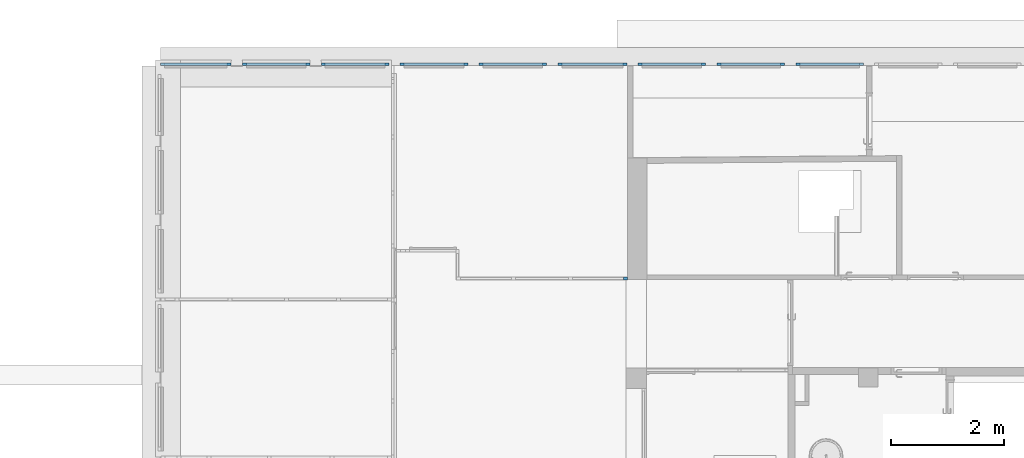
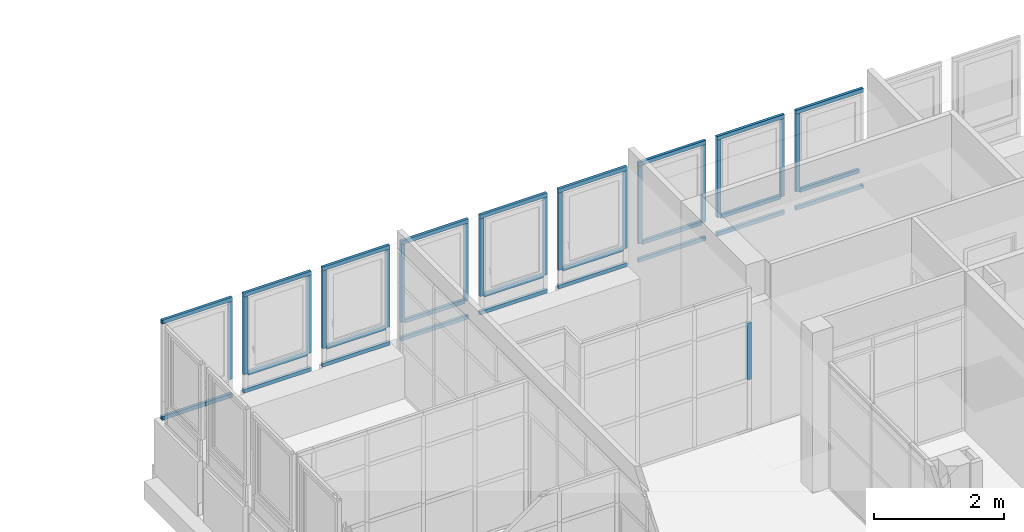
# One storey, part 11 of 97: 43 members, 10 elements without a shape of their own.
"""IFC4 building model written with IfcOpenShell, lengths in metres."""

from ifc_helpers import new_model, entity, si_unit, converted_unit, derived_unit, direction, frame, origin, place, context, subcontext, project, spatial, indexed_curve, outline, extrude, source, transform, mapped, material, type_object, type_shapes, element, aggregate, save


model = new_model("IFC4")

# Units and contexts
model_context = context("Model", 3, precision=1e-05, world=origin(), true_north=direction((6.12303176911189e-17, 1.0)))
body_context = subcontext(model_context, "Body", "Model", "MODEL_VIEW")
ifc_project = project(units=[si_unit("LENGTHUNIT", "METRE"), si_unit("AREAUNIT", "SQUARE_METRE"), si_unit("VOLUMEUNIT", "CUBIC_METRE"), converted_unit("PLANEANGLEUNIT", "DEGREE", entity("IfcRatioMeasure", 0.0174532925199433), si_unit("PLANEANGLEUNIT", "RADIAN"), dimensions=[0, 0, 0, 0, 0, 0, 0]), si_unit("MASSUNIT", "GRAM", prefix="KILO"), derived_unit("MASSDENSITYUNIT", [(si_unit("MASSUNIT", "GRAM", prefix="KILO"), 1), (si_unit("LENGTHUNIT", "METRE"), -3)]), derived_unit("MOMENTOFINERTIAUNIT", [(si_unit("LENGTHUNIT", "METRE"), 4)]), si_unit("TIMEUNIT", "SECOND"), si_unit("FREQUENCYUNIT", "HERTZ"), si_unit("THERMODYNAMICTEMPERATUREUNIT", "DEGREE_CELSIUS"), derived_unit("THERMALTRANSMITTANCEUNIT", [(si_unit("MASSUNIT", "GRAM", prefix="KILO"), 1), (si_unit("THERMODYNAMICTEMPERATUREUNIT", "KELVIN"), -1), (si_unit("TIMEUNIT", "SECOND"), -3)]), derived_unit("VOLUMETRICFLOWRATEUNIT", [(si_unit("LENGTHUNIT", "METRE"), 3), (si_unit("TIMEUNIT", "SECOND"), -1)]), si_unit("ELECTRICCURRENTUNIT", "AMPERE"), si_unit("ELECTRICVOLTAGEUNIT", "VOLT"), si_unit("POWERUNIT", "WATT"), si_unit("FORCEUNIT", "NEWTON", prefix="KILO"), si_unit("ILLUMINANCEUNIT", "LUX"), si_unit("LUMINOUSFLUXUNIT", "LUMEN"), si_unit("LUMINOUSINTENSITYUNIT", "CANDELA"), derived_unit("USERDEFINED", [(si_unit("MASSUNIT", "GRAM", prefix="KILO"), -1), (si_unit("LENGTHUNIT", "METRE"), -2), (si_unit("TIMEUNIT", "SECOND"), 3), (si_unit("LUMINOUSFLUXUNIT", "LUMEN"), 1)]), derived_unit("LINEARVELOCITYUNIT", [(si_unit("LENGTHUNIT", "METRE"), 1), (si_unit("TIMEUNIT", "SECOND"), -1)]), si_unit("PRESSUREUNIT", "PASCAL"), derived_unit("USERDEFINED", [(si_unit("LENGTHUNIT", "METRE"), -2), (si_unit("MASSUNIT", "GRAM", prefix="KILO"), 1), (si_unit("TIMEUNIT", "SECOND"), -2)]), derived_unit("LINEARFORCEUNIT", [(si_unit("MASSUNIT", "GRAM", prefix="KILO"), 1), (si_unit("LENGTHUNIT", "METRE"), 1), (si_unit("TIMEUNIT", "SECOND"), -2), (si_unit("LENGTHUNIT", "METRE"), -1)]), derived_unit("PLANARFORCEUNIT", [(si_unit("MASSUNIT", "GRAM", prefix="KILO"), 1), (si_unit("LENGTHUNIT", "METRE"), 1), (si_unit("TIMEUNIT", "SECOND"), -2), (si_unit("LENGTHUNIT", "METRE"), -2)])], contexts=[model_context])

# Site, building, storey
site_placement = place(None, origin())
site = spatial("IfcSite", under=ifc_project, at=site_placement, Name="Default", CompositionType="ELEMENT")
building_placement = place(site_placement, origin())
building = spatial("IfcBuilding", under=site, at=building_placement, Name="HOTEL CONSULAIRE BOULOGNE SUR MER", CompositionType="ELEMENT")
storey_placement = place(building_placement, frame((0.0, 0.0, 3.62152697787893)))
storey = spatial("IfcBuildingStorey", under=building, at=storey_placement, Name="Niveau 1", CompositionType="ELEMENT", Elevation=3.62152697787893)

# Curtain wall, member
curtain_wall_type = type_object("IfcCurtainWallType", Name="Mur-rideau:Simple panneau", PredefinedType="NOTDEFINED")
curtain_wall_1_placement = place(storey_placement, frame((0.0, 0.0, -3.62152697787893)))
curtain_wall_1 = element("IfcCurtainWall", 1, at=curtain_wall_1_placement, inside=storey, type_object=curtain_wall_type, Name="Mur-rideau:Simple panneau", ObjectType="Mur-rideau:Simple panneau", PredefinedType="NOTDEFINED")
ifc_material_1 = material(Name="PVC - Blanc", Category="Plastique")
member_type_1 = type_object("IfcMemberType", Name="Meneau rectangulaire:50 x 35", PredefinedType="MULLION", material=ifc_material_1)
shared_shape_1 = source(origin(), body_context, "Body", "SweptSolid", [
    extrude(outline(indexed_curve([(-0.025, -0.035), (0.025, -0.035), (0.025, 0.035), (-0.025, 0.035), (-0.025, -0.035)], self_intersect=False)), frame((-0.035, -0.025, -1.20000000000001), z_axis=(0.0, 0.0, 1.0), x_axis=(0.0, -1.0, 0.0)), (0.0, 0.0, 1.0), 1.20000000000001),
])
type_shapes(member_type_1, [shared_shape_1])
member_1_placement = place(storey_placement, frame((-11.1414199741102, -10.0746323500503, 2.67047302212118), z_axis=(1.0, 0.0, 0.0), x_axis=(0.0, 0.0, 1.0)))
member_1 = element("IfcMember", 2, at=member_1_placement, type_object=member_type_1, material=ifc_material_1, Name="Meneau rectangulaire:50 x 35", ObjectType="Meneau rectangulaire:50 x 35", PredefinedType="MULLION", context=body_context, shape_type="MappedRepresentation", body=[
    mapped(shared_shape_1, transform((0.0, 0.0, 0.0), scale=1.0)),
])

curtain_wall_2_placement = place(storey_placement, frame((0.0, 0.0, -3.62152697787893)))
curtain_wall_2 = element("IfcCurtainWall", 3, at=curtain_wall_2_placement, inside=storey, type_object=curtain_wall_type, Name="Mur-rideau:Simple panneau", ObjectType="Mur-rideau:Simple panneau", PredefinedType="NOTDEFINED")
member_2_placement = place(storey_placement, frame((-9.74141997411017, -10.0746323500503, 2.67047302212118), z_axis=(1.0, 0.0, 0.0), x_axis=(0.0, 0.0, 1.0)))
member_2 = element("IfcMember", 4, at=member_2_placement, type_object=member_type_1, material=ifc_material_1, Name="Meneau rectangulaire:50 x 35", ObjectType="Meneau rectangulaire:50 x 35", PredefinedType="MULLION", context=body_context, shape_type="MappedRepresentation", body=[
    mapped(shared_shape_1, transform((0.0, 0.0, 0.0), scale=1.0)),
])

curtain_wall_3_placement = place(storey_placement, frame((0.0, 0.0, -3.62152697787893)))
curtain_wall_3 = element("IfcCurtainWall", 5, at=curtain_wall_3_placement, inside=storey, type_object=curtain_wall_type, Name="Mur-rideau:Simple panneau", ObjectType="Mur-rideau:Simple panneau", PredefinedType="NOTDEFINED")
member_3_placement = place(storey_placement, frame((-8.34141997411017, -10.0746323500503, 2.67047302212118), z_axis=(1.0, 0.0, 0.0), x_axis=(0.0, 0.0, 1.0)))
member_3 = element("IfcMember", 6, at=member_3_placement, type_object=member_type_1, material=ifc_material_1, Name="Meneau rectangulaire:50 x 35", ObjectType="Meneau rectangulaire:50 x 35", PredefinedType="MULLION", context=body_context, shape_type="MappedRepresentation", body=[
    mapped(shared_shape_1, transform((0.0, 0.0, 0.0), scale=1.0)),
])

curtain_wall_4_placement = place(storey_placement, frame((0.0, 0.0, -3.62152697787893)))
curtain_wall_4 = element("IfcCurtainWall", 7, at=curtain_wall_4_placement, inside=storey, type_object=curtain_wall_type, Name="Mur-rideau:Simple panneau", ObjectType="Mur-rideau:Simple panneau", PredefinedType="NOTDEFINED")
member_4_placement = place(storey_placement, frame((-6.94141997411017, -10.0746323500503, 2.67047302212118), z_axis=(1.0, 0.0, 0.0), x_axis=(0.0, 0.0, 1.0)))
member_4 = element("IfcMember", 8, at=member_4_placement, type_object=member_type_1, material=ifc_material_1, Name="Meneau rectangulaire:50 x 35", ObjectType="Meneau rectangulaire:50 x 35", PredefinedType="MULLION", context=body_context, shape_type="MappedRepresentation", body=[
    mapped(shared_shape_1, transform((0.0, 0.0, 0.0), scale=1.0)),
])

curtain_wall_5_placement = place(storey_placement, frame((0.0, 0.0, -3.62152697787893)))
curtain_wall_5 = element("IfcCurtainWall", 9, at=curtain_wall_5_placement, inside=storey, type_object=curtain_wall_type, Name="Mur-rideau:Simple panneau", ObjectType="Mur-rideau:Simple panneau", PredefinedType="NOTDEFINED")
member_5_placement = place(storey_placement, frame((-4.11977317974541, -10.0746323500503, 2.67047302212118), z_axis=(1.0, 0.0, 0.0), x_axis=(0.0, 0.0, 1.0)))
member_5 = element("IfcMember", 10, at=member_5_placement, type_object=member_type_1, material=ifc_material_1, Name="Meneau rectangulaire:50 x 35", ObjectType="Meneau rectangulaire:50 x 35", PredefinedType="MULLION", context=body_context, shape_type="MappedRepresentation", body=[
    mapped(shared_shape_1, transform((0.0, 0.0, 0.0), scale=1.0)),
])

curtain_wall_6_placement = place(storey_placement, frame((0.0, 0.0, -3.62152697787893)))
curtain_wall_6 = element("IfcCurtainWall", 11, at=curtain_wall_6_placement, inside=storey, type_object=curtain_wall_type, Name="Mur-rideau:Simple panneau", ObjectType="Mur-rideau:Simple panneau", PredefinedType="NOTDEFINED")
member_6_placement = place(storey_placement, frame((-2.71977317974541, -10.0746323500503, 2.67047302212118), z_axis=(1.0, 0.0, 0.0), x_axis=(0.0, 0.0, 1.0)))
member_6 = element("IfcMember", 12, at=member_6_placement, type_object=member_type_1, material=ifc_material_1, Name="Meneau rectangulaire:50 x 35", ObjectType="Meneau rectangulaire:50 x 35", PredefinedType="MULLION", context=body_context, shape_type="MappedRepresentation", body=[
    mapped(shared_shape_1, transform((0.0, 0.0, 0.0), scale=1.0)),
])

curtain_wall_7_placement = place(storey_placement, frame((0.0, 0.0, -3.62152697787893)))
curtain_wall_7 = element("IfcCurtainWall", 13, at=curtain_wall_7_placement, inside=storey, type_object=curtain_wall_type, Name="Mur-rideau:Simple panneau", ObjectType="Mur-rideau:Simple panneau", PredefinedType="NOTDEFINED")
member_7_placement = place(storey_placement, frame((-1.31977317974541, -10.0746323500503, 2.67047302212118), z_axis=(1.0, 0.0, 0.0), x_axis=(0.0, 0.0, 1.0)))
member_7 = element("IfcMember", 14, at=member_7_placement, type_object=member_type_1, material=ifc_material_1, Name="Meneau rectangulaire:50 x 35", ObjectType="Meneau rectangulaire:50 x 35", PredefinedType="MULLION", context=body_context, shape_type="MappedRepresentation", body=[
    mapped(shared_shape_1, transform((0.0, 0.0, 0.0), scale=1.0)),
])

# Member
member_type_2 = type_object("IfcMemberType", Name="Meneau rectangulaire:50 x 35", PredefinedType="MULLION", material=ifc_material_1)
shared_shape_2 = source(origin(), body_context, "Body", "SweptSolid", [
    extrude(outline(indexed_curve([(-0.025, -0.035), (0.025, -0.035), (0.025, 0.035), (-0.025, 0.035), (-0.025, -0.035)], self_intersect=False)), frame((-0.035, -0.025, -1.20000000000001), z_axis=(0.0, 0.0, 1.0), x_axis=(0.0, -1.0, 0.0)), (0.0, 0.0, 1.0), 1.20000000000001),
])
type_shapes(member_type_2, [shared_shape_2])
member_8_placement = place(storey_placement, frame((-12.3414199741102, -10.0746323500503, 0.791612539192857), z_axis=(-1.0, 0.0, 0.0), x_axis=(0.0, 0.0, -1.0)))
member_8 = element("IfcMember", 15, at=member_8_placement, type_object=member_type_2, material=ifc_material_1, Name="Meneau rectangulaire:50 x 35", ObjectType="Meneau rectangulaire:50 x 35", PredefinedType="MULLION", context=body_context, shape_type="MappedRepresentation", body=[
    mapped(shared_shape_2, transform((0.0, 0.0, 0.0), scale=1.0)),
])

member_9_placement = place(storey_placement, frame((-10.9414199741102, -10.0746323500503, 0.791612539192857), z_axis=(-1.0, 0.0, 0.0), x_axis=(0.0, 0.0, -1.0)))
member_9 = element("IfcMember", 16, at=member_9_placement, type_object=member_type_2, material=ifc_material_1, Name="Meneau rectangulaire:50 x 35", ObjectType="Meneau rectangulaire:50 x 35", PredefinedType="MULLION", context=body_context, shape_type="MappedRepresentation", body=[
    mapped(shared_shape_2, transform((0.0, 0.0, 0.0), scale=1.0)),
])

member_10_placement = place(storey_placement, frame((-9.54141997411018, -10.0746323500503, 0.791612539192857), z_axis=(-1.0, 0.0, 0.0), x_axis=(0.0, 0.0, -1.0)))
member_10 = element("IfcMember", 17, at=member_10_placement, type_object=member_type_2, material=ifc_material_1, Name="Meneau rectangulaire:50 x 35", ObjectType="Meneau rectangulaire:50 x 35", PredefinedType="MULLION", context=body_context, shape_type="MappedRepresentation", body=[
    mapped(shared_shape_2, transform((0.0, 0.0, 0.0), scale=1.0)),
])

member_11_placement = place(storey_placement, frame((-8.14141997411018, -10.0746323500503, 0.791612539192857), z_axis=(-1.0, 0.0, 0.0), x_axis=(0.0, 0.0, -1.0)))
member_11 = element("IfcMember", 18, at=member_11_placement, type_object=member_type_2, material=ifc_material_1, Name="Meneau rectangulaire:50 x 35", ObjectType="Meneau rectangulaire:50 x 35", PredefinedType="MULLION", context=body_context, shape_type="MappedRepresentation", body=[
    mapped(shared_shape_2, transform((0.0, 0.0, 0.0), scale=1.0)),
])

member_12_placement = place(storey_placement, frame((-5.31977317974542, -10.0746323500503, 0.791612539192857), z_axis=(-1.0, 0.0, 0.0), x_axis=(0.0, 0.0, -1.0)))
member_12 = element("IfcMember", 19, at=member_12_placement, type_object=member_type_2, material=ifc_material_1, Name="Meneau rectangulaire:50 x 35", ObjectType="Meneau rectangulaire:50 x 35", PredefinedType="MULLION", context=body_context, shape_type="MappedRepresentation", body=[
    mapped(shared_shape_2, transform((0.0, 0.0, 0.0), scale=1.0)),
])

member_13_placement = place(storey_placement, frame((-3.91977317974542, -10.0746323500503, 0.791612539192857), z_axis=(-1.0, 0.0, 0.0), x_axis=(0.0, 0.0, -1.0)))
member_13 = element("IfcMember", 20, at=member_13_placement, type_object=member_type_2, material=ifc_material_1, Name="Meneau rectangulaire:50 x 35", ObjectType="Meneau rectangulaire:50 x 35", PredefinedType="MULLION", context=body_context, shape_type="MappedRepresentation", body=[
    mapped(shared_shape_2, transform((0.0, 0.0, 0.0), scale=1.0)),
])

member_14_placement = place(storey_placement, frame((-2.51977317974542, -10.0746323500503, 0.791612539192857), z_axis=(-1.0, 0.0, 0.0), x_axis=(0.0, 0.0, -1.0)))
member_14 = element("IfcMember", 21, at=member_14_placement, type_object=member_type_2, material=ifc_material_1, Name="Meneau rectangulaire:50 x 35", ObjectType="Meneau rectangulaire:50 x 35", PredefinedType="MULLION", context=body_context, shape_type="MappedRepresentation", body=[
    mapped(shared_shape_2, transform((0.0, 0.0, 0.0), scale=1.0)),
])

member_type_3 = type_object("IfcMemberType", Name="Meneau rectangulaire:50 x 35", PredefinedType="MULLION", material=ifc_material_1)
shared_shape_3 = source(origin(), body_context, "Body", "SweptSolid", [
    extrude(outline(indexed_curve([(-0.025, -0.035), (0.025, -0.035), (0.025, 0.035), (-0.025, 0.035), (-0.025, -0.035)], self_intersect=False)), frame((0.0, -0.025, -1.06000000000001), z_axis=(0.0, 0.0, 1.0), x_axis=(0.0, -1.0, 0.0)), (0.0, 0.0, 1.0), 1.06000000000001),
])
type_shapes(member_type_3, [shared_shape_3])
member_15_placement = place(storey_placement, frame((-11.2114199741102, -10.0746323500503, 1.13961253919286), z_axis=(1.0, 0.0, 0.0), x_axis=(0.0, 0.0, 1.0)))
member_15 = element("IfcMember", 22, at=member_15_placement, type_object=member_type_3, material=ifc_material_1, Name="Meneau rectangulaire:50 x 35", ObjectType="Meneau rectangulaire:50 x 35", PredefinedType="MULLION", context=body_context, shape_type="MappedRepresentation", body=[
    mapped(shared_shape_3, transform((0.0, 0.0, 0.0), scale=1.0)),
])

member_16_placement = place(storey_placement, frame((-9.81141997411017, -10.0746323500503, 1.13961253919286), z_axis=(1.0, 0.0, 0.0), x_axis=(0.0, 0.0, 1.0)))
member_16 = element("IfcMember", 23, at=member_16_placement, type_object=member_type_3, material=ifc_material_1, Name="Meneau rectangulaire:50 x 35", ObjectType="Meneau rectangulaire:50 x 35", PredefinedType="MULLION", context=body_context, shape_type="MappedRepresentation", body=[
    mapped(shared_shape_3, transform((0.0, 0.0, 0.0), scale=1.0)),
])

member_17_placement = place(storey_placement, frame((-8.41141997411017, -10.0746323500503, 1.13961253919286), z_axis=(1.0, 0.0, 0.0), x_axis=(0.0, 0.0, 1.0)))
member_17 = element("IfcMember", 24, at=member_17_placement, type_object=member_type_3, material=ifc_material_1, Name="Meneau rectangulaire:50 x 35", ObjectType="Meneau rectangulaire:50 x 35", PredefinedType="MULLION", context=body_context, shape_type="MappedRepresentation", body=[
    mapped(shared_shape_3, transform((0.0, 0.0, 0.0), scale=1.0)),
])

member_18_placement = place(storey_placement, frame((-7.01141997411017, -10.0746323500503, 1.13961253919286), z_axis=(1.0, 0.0, 0.0), x_axis=(0.0, 0.0, 1.0)))
member_18 = element("IfcMember", 25, at=member_18_placement, type_object=member_type_3, material=ifc_material_1, Name="Meneau rectangulaire:50 x 35", ObjectType="Meneau rectangulaire:50 x 35", PredefinedType="MULLION", context=body_context, shape_type="MappedRepresentation", body=[
    mapped(shared_shape_3, transform((0.0, 0.0, 0.0), scale=1.0)),
])

member_19_placement = place(storey_placement, frame((-4.18977317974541, -10.0746323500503, 1.13961253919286), z_axis=(1.0, 0.0, 0.0), x_axis=(0.0, 0.0, 1.0)))
member_19 = element("IfcMember", 26, at=member_19_placement, type_object=member_type_3, material=ifc_material_1, Name="Meneau rectangulaire:50 x 35", ObjectType="Meneau rectangulaire:50 x 35", PredefinedType="MULLION", context=body_context, shape_type="MappedRepresentation", body=[
    mapped(shared_shape_3, transform((0.0, 0.0, 0.0), scale=1.0)),
])

member_20_placement = place(storey_placement, frame((-2.78977317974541, -10.0746323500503, 1.13961253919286), z_axis=(1.0, 0.0, 0.0), x_axis=(0.0, 0.0, 1.0)))
member_20 = element("IfcMember", 27, at=member_20_placement, type_object=member_type_3, material=ifc_material_1, Name="Meneau rectangulaire:50 x 35", ObjectType="Meneau rectangulaire:50 x 35", PredefinedType="MULLION", context=body_context, shape_type="MappedRepresentation", body=[
    mapped(shared_shape_3, transform((0.0, 0.0, 0.0), scale=1.0)),
])

member_21_placement = place(storey_placement, frame((-1.38977317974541, -10.0746323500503, 1.13961253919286), z_axis=(1.0, 0.0, 0.0), x_axis=(0.0, 0.0, 1.0)))
member_21 = element("IfcMember", 28, at=member_21_placement, type_object=member_type_3, material=ifc_material_1, Name="Meneau rectangulaire:50 x 35", ObjectType="Meneau rectangulaire:50 x 35", PredefinedType="MULLION", context=body_context, shape_type="MappedRepresentation", body=[
    mapped(shared_shape_3, transform((0.0, 0.0, 0.0), scale=1.0)),
])

# Curtain wall, member
curtain_wall_8_placement = place(storey_placement, frame((0.0, 0.0, -3.62152697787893)))
curtain_wall_8 = element("IfcCurtainWall", 29, at=curtain_wall_8_placement, inside=storey, type_object=curtain_wall_type, Name="Mur-rideau:Simple panneau", ObjectType="Mur-rideau:Simple panneau", PredefinedType="NOTDEFINED")
member_type_4 = type_object("IfcMemberType", Name="Meneau rectangulaire:50 x 35", PredefinedType="MULLION", material=ifc_material_1)
shared_shape_4 = source(origin(), body_context, "Body", "SweptSolid", [
    extrude(outline(indexed_curve([(-0.025, -0.035), (0.025, -0.035), (0.025, 0.035), (-0.025, 0.035), (-0.025, -0.035)], self_intersect=False)), frame((-0.035, -0.025, -1.46086048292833), z_axis=(0.0, 0.0, 1.0), x_axis=(0.0, -1.0, 0.0)), (0.0, 0.0, 1.0), 1.46086048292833),
])
type_shapes(member_type_4, [shared_shape_4])
member_22_placement = place(storey_placement, frame((-12.5414199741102, -10.0746323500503, 1.13961253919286), z_axis=(0.0, 0.0, -1.0), x_axis=(1.0, 0.0, 0.0)))
member_22 = element("IfcMember", 30, at=member_22_placement, type_object=member_type_4, material=ifc_material_1, Name="Meneau rectangulaire:50 x 35", ObjectType="Meneau rectangulaire:50 x 35", PredefinedType="MULLION", context=body_context, shape_type="MappedRepresentation", body=[
    mapped(shared_shape_4, transform((0.0, 0.0, 0.0), scale=1.0)),
])

# Member
member_23_placement = place(storey_placement, frame((-11.1414199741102, -10.0746323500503, 1.13961253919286), z_axis=(0.0, 0.0, -1.0), x_axis=(1.0, 0.0, 0.0)))
member_23 = element("IfcMember", 31, at=member_23_placement, type_object=member_type_4, material=ifc_material_1, Name="Meneau rectangulaire:50 x 35", ObjectType="Meneau rectangulaire:50 x 35", PredefinedType="MULLION", context=body_context, shape_type="MappedRepresentation", body=[
    mapped(shared_shape_4, transform((0.0, 0.0, 0.0), scale=1.0)),
])

member_24_placement = place(storey_placement, frame((-9.74141997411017, -10.0746323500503, 1.13961253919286), z_axis=(0.0, 0.0, -1.0), x_axis=(1.0, 0.0, 0.0)))
member_24 = element("IfcMember", 32, at=member_24_placement, type_object=member_type_4, material=ifc_material_1, Name="Meneau rectangulaire:50 x 35", ObjectType="Meneau rectangulaire:50 x 35", PredefinedType="MULLION", context=body_context, shape_type="MappedRepresentation", body=[
    mapped(shared_shape_4, transform((0.0, 0.0, 0.0), scale=1.0)),
])

member_25_placement = place(storey_placement, frame((-8.34141997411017, -10.0746323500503, 1.13961253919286), z_axis=(0.0, 0.0, -1.0), x_axis=(1.0, 0.0, 0.0)))
member_25 = element("IfcMember", 33, at=member_25_placement, type_object=member_type_4, material=ifc_material_1, Name="Meneau rectangulaire:50 x 35", ObjectType="Meneau rectangulaire:50 x 35", PredefinedType="MULLION", context=body_context, shape_type="MappedRepresentation", body=[
    mapped(shared_shape_4, transform((0.0, 0.0, 0.0), scale=1.0)),
])

member_26_placement = place(storey_placement, frame((-6.94141997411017, -10.0746323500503, 1.13961253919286), z_axis=(0.0, 0.0, -1.0), x_axis=(1.0, 0.0, 0.0)))
member_26 = element("IfcMember", 34, at=member_26_placement, type_object=member_type_4, material=ifc_material_1, Name="Meneau rectangulaire:50 x 35", ObjectType="Meneau rectangulaire:50 x 35", PredefinedType="MULLION", context=body_context, shape_type="MappedRepresentation", body=[
    mapped(shared_shape_4, transform((0.0, 0.0, 0.0), scale=1.0)),
])

# Curtain wall, member
curtain_wall_9_placement = place(storey_placement, frame((0.0, 0.0, -3.62152697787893)))
curtain_wall_9 = element("IfcCurtainWall", 35, at=curtain_wall_9_placement, inside=storey, type_object=curtain_wall_type, Name="Mur-rideau:Simple panneau", ObjectType="Mur-rideau:Simple panneau", PredefinedType="NOTDEFINED")
member_27_placement = place(storey_placement, frame((-5.51977317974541, -10.0746323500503, 1.13961253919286), z_axis=(0.0, 0.0, -1.0), x_axis=(1.0, 0.0, 0.0)))
member_27 = element("IfcMember", 36, at=member_27_placement, type_object=member_type_4, material=ifc_material_1, Name="Meneau rectangulaire:50 x 35", ObjectType="Meneau rectangulaire:50 x 35", PredefinedType="MULLION", context=body_context, shape_type="MappedRepresentation", body=[
    mapped(shared_shape_4, transform((0.0, 0.0, 0.0), scale=1.0)),
])

# Member
member_28_placement = place(storey_placement, frame((-4.11977317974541, -10.0746323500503, 1.13961253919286), z_axis=(0.0, 0.0, -1.0), x_axis=(1.0, 0.0, 0.0)))
member_28 = element("IfcMember", 37, at=member_28_placement, type_object=member_type_4, material=ifc_material_1, Name="Meneau rectangulaire:50 x 35", ObjectType="Meneau rectangulaire:50 x 35", PredefinedType="MULLION", context=body_context, shape_type="MappedRepresentation", body=[
    mapped(shared_shape_4, transform((0.0, 0.0, 0.0), scale=1.0)),
])

member_29_placement = place(storey_placement, frame((-2.71977317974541, -10.0746323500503, 1.13961253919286), z_axis=(0.0, 0.0, -1.0), x_axis=(1.0, 0.0, 0.0)))
member_29 = element("IfcMember", 38, at=member_29_placement, type_object=member_type_4, material=ifc_material_1, Name="Meneau rectangulaire:50 x 35", ObjectType="Meneau rectangulaire:50 x 35", PredefinedType="MULLION", context=body_context, shape_type="MappedRepresentation", body=[
    mapped(shared_shape_4, transform((0.0, 0.0, 0.0), scale=1.0)),
])

member_type_5 = type_object("IfcMemberType", Name="Meneau rectangulaire:50 x 35", PredefinedType="MULLION", material=ifc_material_1)
shared_shape_5 = source(origin(), body_context, "Body", "SweptSolid", [
    extrude(outline(indexed_curve([(-0.025, -0.035), (0.025, -0.035), (0.025, 0.035), (-0.025, 0.035), (-0.025, -0.035)], self_intersect=False)), frame((-0.035, -0.025, -1.46086048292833), z_axis=(0.0, 0.0, 1.0), x_axis=(0.0, -1.0, 0.0)), (0.0, 0.0, 1.0), 1.46086048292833),
])
type_shapes(member_type_5, [shared_shape_5])
member_30_placement = place(storey_placement, frame((-12.3414199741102, -10.0746323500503, 2.60047302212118), z_axis=(0.0, 0.0, 1.0), x_axis=(-1.0, 0.0, 0.0)))
member_30 = element("IfcMember", 39, at=member_30_placement, type_object=member_type_5, material=ifc_material_1, Name="Meneau rectangulaire:50 x 35", ObjectType="Meneau rectangulaire:50 x 35", PredefinedType="MULLION", context=body_context, shape_type="MappedRepresentation", body=[
    mapped(shared_shape_5, transform((0.0, 0.0, 0.0), scale=1.0)),
])

aggregate(curtain_wall_1, [member_15, member_30, member_1, member_8, member_23])

member_31_placement = place(storey_placement, frame((-10.9414199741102, -10.0746323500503, 2.60047302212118), z_axis=(0.0, 0.0, 1.0), x_axis=(-1.0, 0.0, 0.0)))
member_31 = element("IfcMember", 40, at=member_31_placement, type_object=member_type_5, material=ifc_material_1, Name="Meneau rectangulaire:50 x 35", ObjectType="Meneau rectangulaire:50 x 35", PredefinedType="MULLION", context=body_context, shape_type="MappedRepresentation", body=[
    mapped(shared_shape_5, transform((0.0, 0.0, 0.0), scale=1.0)),
])

aggregate(curtain_wall_2, [member_16, member_31, member_2, member_9, member_24])

member_32_placement = place(storey_placement, frame((-9.54141997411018, -10.0746323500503, 2.60047302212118), z_axis=(0.0, 0.0, 1.0), x_axis=(-1.0, 0.0, 0.0)))
member_32 = element("IfcMember", 41, at=member_32_placement, type_object=member_type_5, material=ifc_material_1, Name="Meneau rectangulaire:50 x 35", ObjectType="Meneau rectangulaire:50 x 35", PredefinedType="MULLION", context=body_context, shape_type="MappedRepresentation", body=[
    mapped(shared_shape_5, transform((0.0, 0.0, 0.0), scale=1.0)),
])

aggregate(curtain_wall_3, [member_17, member_32, member_3, member_10, member_25])

member_33_placement = place(storey_placement, frame((-8.14141997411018, -10.0746323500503, 2.60047302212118), z_axis=(0.0, 0.0, 1.0), x_axis=(-1.0, 0.0, 0.0)))
member_33 = element("IfcMember", 42, at=member_33_placement, type_object=member_type_5, material=ifc_material_1, Name="Meneau rectangulaire:50 x 35", ObjectType="Meneau rectangulaire:50 x 35", PredefinedType="MULLION", context=body_context, shape_type="MappedRepresentation", body=[
    mapped(shared_shape_5, transform((0.0, 0.0, 0.0), scale=1.0)),
])

aggregate(curtain_wall_4, [member_18, member_33, member_4, member_11, member_26])

member_34_placement = place(storey_placement, frame((-6.74141997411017, -10.0746323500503, 2.60047302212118), z_axis=(0.0, 0.0, 1.0), x_axis=(-1.0, 0.0, 0.0)))
member_34 = element("IfcMember", 43, at=member_34_placement, type_object=member_type_5, material=ifc_material_1, Name="Meneau rectangulaire:50 x 35", ObjectType="Meneau rectangulaire:50 x 35", PredefinedType="MULLION", context=body_context, shape_type="MappedRepresentation", body=[
    mapped(shared_shape_5, transform((0.0, 0.0, 0.0), scale=1.0)),
])

member_35_placement = place(storey_placement, frame((-5.31977317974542, -10.0746323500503, 2.60047302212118), z_axis=(0.0, 0.0, 1.0), x_axis=(-1.0, 0.0, 0.0)))
member_35 = element("IfcMember", 44, at=member_35_placement, type_object=member_type_5, material=ifc_material_1, Name="Meneau rectangulaire:50 x 35", ObjectType="Meneau rectangulaire:50 x 35", PredefinedType="MULLION", context=body_context, shape_type="MappedRepresentation", body=[
    mapped(shared_shape_5, transform((0.0, 0.0, 0.0), scale=1.0)),
])

aggregate(curtain_wall_5, [member_19, member_35, member_5, member_12, member_28])

member_36_placement = place(storey_placement, frame((-3.91977317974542, -10.0746323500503, 2.60047302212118), z_axis=(0.0, 0.0, 1.0), x_axis=(-1.0, 0.0, 0.0)))
member_36 = element("IfcMember", 45, at=member_36_placement, type_object=member_type_5, material=ifc_material_1, Name="Meneau rectangulaire:50 x 35", ObjectType="Meneau rectangulaire:50 x 35", PredefinedType="MULLION", context=body_context, shape_type="MappedRepresentation", body=[
    mapped(shared_shape_5, transform((0.0, 0.0, 0.0), scale=1.0)),
])

aggregate(curtain_wall_6, [member_20, member_36, member_6, member_13, member_29])

member_37_placement = place(storey_placement, frame((-2.51977317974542, -10.0746323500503, 2.60047302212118), z_axis=(0.0, 0.0, 1.0), x_axis=(-1.0, 0.0, 0.0)))
member_37 = element("IfcMember", 46, at=member_37_placement, type_object=member_type_5, material=ifc_material_1, Name="Meneau rectangulaire:50 x 35", ObjectType="Meneau rectangulaire:50 x 35", PredefinedType="MULLION", context=body_context, shape_type="MappedRepresentation", body=[
    mapped(shared_shape_5, transform((0.0, 0.0, 0.0), scale=1.0)),
])

aggregate(curtain_wall_7, [member_21, member_37, member_7, member_14])

member_type_6 = type_object("IfcMemberType", Name="Meneau rectangulaire:50 x 35", PredefinedType="MULLION", material=ifc_material_1)
shared_shape_6 = source(origin(), body_context, "Body", "SweptSolid", [
    extrude(outline(indexed_curve([(-0.025, -0.035), (0.025, -0.035), (0.025, 0.035), (-0.025, 0.035), (-0.025, -0.035)], self_intersect=False)), frame((-0.035, -0.025, -1.25256068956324), z_axis=(0.0, 0.0, 1.0), x_axis=(0.0, -1.0, 0.0)), (0.0, 0.0, 1.0), 1.25256068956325),
])
type_shapes(member_type_6, [shared_shape_6])
member_38_placement = place(storey_placement, frame((-12.5414199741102, -10.0746323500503, 2.67047302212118), z_axis=(1.0, 0.0, 0.0), x_axis=(0.0, 0.0, 1.0)))
member_38 = element("IfcMember", 47, at=member_38_placement, type_object=member_type_6, material=ifc_material_1, Name="Meneau rectangulaire:50 x 35", ObjectType="Meneau rectangulaire:50 x 35", PredefinedType="MULLION", context=body_context, shape_type="MappedRepresentation", body=[
    mapped(shared_shape_6, transform((0.0, 0.0, 0.0), scale=1.0)),
])

member_type_7 = type_object("IfcMemberType", Name="Meneau rectangulaire:50 x 35", PredefinedType="MULLION", material=ifc_material_1)
shared_shape_7 = source(origin(), body_context, "Body", "SweptSolid", [
    extrude(outline(indexed_curve([(-0.025, -0.035), (0.025, -0.035), (0.025, 0.035), (-0.025, 0.035), (-0.025, -0.035)], self_intersect=False)), frame((-0.035, -0.025, -1.25256068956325), z_axis=(0.0, 0.0, 1.0), x_axis=(0.0, -1.0, 0.0)), (0.0, 0.0, 1.0), 1.25256068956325),
])
type_shapes(member_type_7, [shared_shape_7])
member_39_placement = place(storey_placement, frame((-13.7939806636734, -10.0746323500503, 0.791612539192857), z_axis=(-1.0, 0.0, 0.0), x_axis=(0.0, 0.0, -1.0)))
member_39 = element("IfcMember", 48, at=member_39_placement, type_object=member_type_7, material=ifc_material_1, Name="Meneau rectangulaire:50 x 35", ObjectType="Meneau rectangulaire:50 x 35", PredefinedType="MULLION", context=body_context, shape_type="MappedRepresentation", body=[
    mapped(shared_shape_7, transform((0.0, 0.0, 0.0), scale=1.0)),
])

aggregate(curtain_wall_8, [member_38, member_39, member_22])

member_type_8 = type_object("IfcMemberType", Name="Meneau rectangulaire:50 x 35", PredefinedType="MULLION", material=ifc_material_1)
shared_shape_8 = source(origin(), body_context, "Body", "SweptSolid", [
    extrude(outline(indexed_curve([(-0.025, -0.035), (0.025, -0.035), (0.025, 0.035), (-0.025, 0.035), (-0.025, -0.035)], self_intersect=False)), frame((0.0, -0.025, -1.08164679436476), z_axis=(0.0, 0.0, 1.0), x_axis=(0.0, -1.0, 0.0)), (0.0, 0.0, 1.0), 1.08164679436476),
])
type_shapes(member_type_8, [shared_shape_8])
member_40_placement = place(storey_placement, frame((-5.58977317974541, -10.0746323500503, 1.13961253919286), z_axis=(1.0, 0.0, 0.0), x_axis=(0.0, 0.0, 1.0)))
member_40 = element("IfcMember", 49, at=member_40_placement, type_object=member_type_8, material=ifc_material_1, Name="Meneau rectangulaire:50 x 35", ObjectType="Meneau rectangulaire:50 x 35", PredefinedType="MULLION", context=body_context, shape_type="MappedRepresentation", body=[
    mapped(shared_shape_8, transform((0.0, 0.0, 0.0), scale=1.0)),
])

member_type_9 = type_object("IfcMemberType", Name="Meneau rectangulaire:50 x 35", PredefinedType="MULLION", material=ifc_material_1)
shared_shape_9 = source(origin(), body_context, "Body", "SweptSolid", [
    extrude(outline(indexed_curve([(-0.025, -0.035), (0.025, -0.035), (0.025, 0.035), (-0.025, 0.035), (-0.025, -0.035)], self_intersect=False)), frame((-0.035, -0.025, -1.22164679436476), z_axis=(0.0, 0.0, 1.0), x_axis=(0.0, -1.0, 0.0)), (0.0, 0.0, 1.0), 1.22164679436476),
])
type_shapes(member_type_9, [shared_shape_9])
member_41_placement = place(storey_placement, frame((-5.51977317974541, -10.0746323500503, 2.67047302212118), z_axis=(1.0, 0.0, 0.0), x_axis=(0.0, 0.0, 1.0)))
member_41 = element("IfcMember", 50, at=member_41_placement, type_object=member_type_9, material=ifc_material_1, Name="Meneau rectangulaire:50 x 35", ObjectType="Meneau rectangulaire:50 x 35", PredefinedType="MULLION", context=body_context, shape_type="MappedRepresentation", body=[
    mapped(shared_shape_9, transform((0.0, 0.0, 0.0), scale=1.0)),
])

member_type_10 = type_object("IfcMemberType", Name="Meneau rectangulaire:50 x 35", PredefinedType="MULLION", material=ifc_material_1)
shared_shape_10 = source(origin(), body_context, "Body", "SweptSolid", [
    extrude(outline(indexed_curve([(-0.025, -0.035), (0.025, -0.035), (0.025, 0.035), (-0.025, 0.035), (-0.025, -0.035)], self_intersect=False)), frame((-0.035, -0.025, -1.22164679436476), z_axis=(0.0, 0.0, 1.0), x_axis=(0.0, -1.0, 0.0)), (0.0, 0.0, 1.0), 1.22164679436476),
])
type_shapes(member_type_10, [shared_shape_10])
member_42_placement = place(storey_placement, frame((-6.74141997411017, -10.0746323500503, 0.791612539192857), z_axis=(-1.0, 0.0, 0.0), x_axis=(0.0, 0.0, -1.0)))
member_42 = element("IfcMember", 51, at=member_42_placement, type_object=member_type_10, material=ifc_material_1, Name="Meneau rectangulaire:50 x 35", ObjectType="Meneau rectangulaire:50 x 35", PredefinedType="MULLION", context=body_context, shape_type="MappedRepresentation", body=[
    mapped(shared_shape_10, transform((0.0, 0.0, 0.0), scale=1.0)),
])

aggregate(curtain_wall_9, [member_40, member_34, member_41, member_42, member_27])

# Curtain wall, member
curtain_wall_10_placement = place(storey_placement, frame((0.0, 0.0, -3.62152697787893)))
curtain_wall_10 = element("IfcCurtainWall", 52, at=curtain_wall_10_placement, inside=storey, type_object=curtain_wall_type, Name="Mur-rideau:Simple panneau", ObjectType="Mur-rideau:Simple panneau", PredefinedType="NOTDEFINED")
ifc_material_2 = material(Name="PVC, souple", Category="Plastique")
member_type_11 = type_object("IfcMemberType", Name="Meneau rectangulaire:50 x 35 pvc gris", PredefinedType="MULLION", material=ifc_material_2)
shared_shape_11 = source(origin(), body_context, "Body", "SweptSolid", [
    extrude(outline(indexed_curve([(-0.025, -0.035), (0.025, -0.035), (0.025, 0.035), (-0.025, 0.035), (-0.025, -0.035)], self_intersect=False)), frame((-0.035, -0.025, -1.06896046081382), z_axis=(0.0, 0.0, 1.0), x_axis=(0.0, -1.0, 0.0)), (0.0, 0.0, 1.0), 1.06896046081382),
])
type_shapes(member_type_11, [shared_shape_11])
member_43_placement = place(storey_placement, frame((-5.5097731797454, -13.8259141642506, 2.04596046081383)))
member_43 = element("IfcMember", 53, at=member_43_placement, type_object=member_type_11, material=ifc_material_2, Name="Meneau rectangulaire:50 x 35 pvc gris", ObjectType="Meneau rectangulaire:50 x 35 pvc gris", PredefinedType="MULLION", context=body_context, shape_type="MappedRepresentation", body=[
    mapped(shared_shape_11, transform((0.0, 0.0, 0.0), scale=1.0)),
])
aggregate(curtain_wall_10, [member_43])

save(model, "model.ifc")
